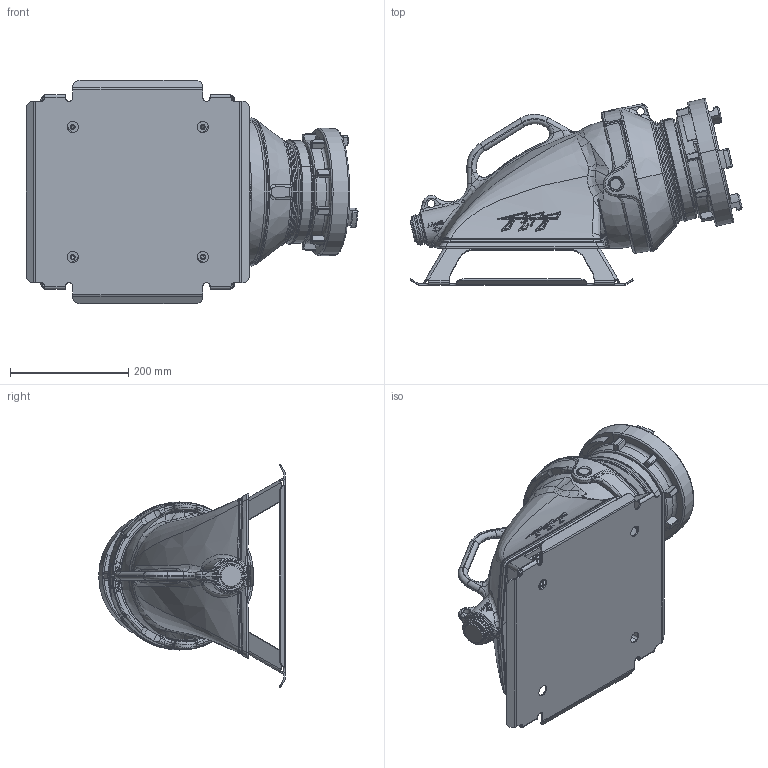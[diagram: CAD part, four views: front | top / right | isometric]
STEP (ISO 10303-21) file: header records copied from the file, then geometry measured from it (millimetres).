
FILE_DESCRIPTION (( 'STEP AP203' ), '1' );
FILE_NAME ('A03SX.step', '2014-05-13T18:29:05', ( 'user' ), ( '' ), 'SwSTEP 2.0', 'SolidWorks 2012', '' );
FILE_SCHEMA (( 'CONFIG_CONTROL_DESIGN' ));
Length unit declared in the file: inch
Products named in the file (1): A03SX
Bounding box: 561.14 x 315.36 x 377.86 mm (x, y, z)
Surface area: 1012039 mm2 (no closed solid volume)
Topology: 0 solids, 44 shells, 1406 faces, 6527 edges, 4439 vertices
Faces by surface type: bspline 424, cylinder 410, plane 314, torus 125, cone 102, sphere 31
Entity records: 103851 total; most frequent: CARTESIAN_POINT 59584, ORIENTED_EDGE 10337, DIRECTION 6969, EDGE_CURVE 6511, VERTEX_POINT 4439, B_SPLINE_CURVE_WITH_KNOTS 2658, AXIS2_PLACEMENT_3D 2554, LINE 1861
